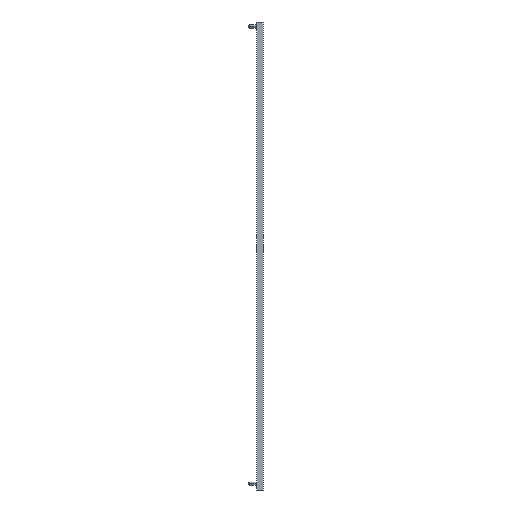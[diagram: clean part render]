
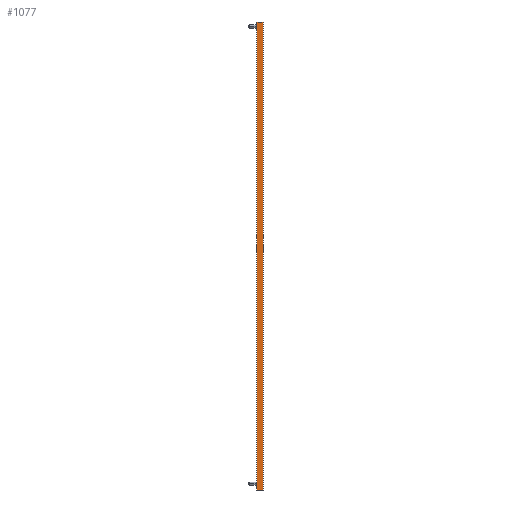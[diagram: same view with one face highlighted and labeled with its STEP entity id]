
A CAD part, left-side view. The second image highlights one B-rep face of the part: STEP entity #1077.
In plain terms, the highlighted planar face has unit normal (-1, 0, 0).
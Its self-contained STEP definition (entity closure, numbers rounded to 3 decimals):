
#23 = ORIENTED_EDGE ( 'NONE', *, *, #484, .F. ) ;
#94 = VERTEX_POINT ( 'NONE', #1176 ) ;
#105 = CARTESIAN_POINT ( 'NONE',  ( -8., 12.5, 879. ) ) ;
#151 = CARTESIAN_POINT ( 'NONE',  ( -8., 0., 0. ) ) ;
#157 = VECTOR ( 'NONE', #1432, 1000. ) ;
#258 = ORIENTED_EDGE ( 'NONE', *, *, #2837, .T. ) ;
#311 = DIRECTION ( 'NONE',  ( 0., -1., 0. ) ) ;
#364 = CARTESIAN_POINT ( 'NONE',  ( -8., 0., 879. ) ) ;
#434 = LINE ( 'NONE', #2697, #157 ) ;
#435 = VECTOR ( 'NONE', #2642, 1000. ) ;
#484 = EDGE_CURVE ( 'NONE', #2152, #2352, #434, .T. ) ;
#489 = EDGE_CURVE ( 'NONE', #1449, #3046, #1183, .T. ) ;
#579 = VECTOR ( 'NONE', #3203, 1000. ) ;
#669 = CARTESIAN_POINT ( 'NONE',  ( -8., 0., 879. ) ) ;
#737 = AXIS2_PLACEMENT_3D ( 'NONE', #364, #1094, #2337 ) ;
#833 = DIRECTION ( 'NONE',  ( 0., -1., 0. ) ) ;
#849 = FACE_OUTER_BOUND ( 'NONE', #2182, .T. ) ;
#931 = DIRECTION ( 'NONE',  ( 0., 1., 0. ) ) ;
#992 = CARTESIAN_POINT ( 'NONE',  ( -8., 12.5, 879. ) ) ;
#1077 = ADVANCED_FACE ( 'NONE', ( #849 ), #2591, .T. ) ;
#1094 = DIRECTION ( 'NONE',  ( -1., 0., 0. ) ) ;
#1099 = DIRECTION ( 'NONE',  ( 0., -1., 0. ) ) ;
#1141 = LINE ( 'NONE', #151, #435 ) ;
#1162 = CARTESIAN_POINT ( 'NONE',  ( -8., 0., 879. ) ) ;
#1176 = CARTESIAN_POINT ( 'NONE',  ( -8., 9.3, 0. ) ) ;
#1183 = LINE ( 'NONE', #2192, #579 ) ;
#1263 = CARTESIAN_POINT ( 'NONE',  ( -8., 9.3, 879. ) ) ;
#1332 = CARTESIAN_POINT ( 'NONE',  ( -8., 0., 0. ) ) ;
#1378 = LINE ( 'NONE', #1162, #2963 ) ;
#1388 = LINE ( 'NONE', #3089, #2988 ) ;
#1432 = DIRECTION ( 'NONE',  ( 0., 0., 1. ) ) ;
#1449 = VERTEX_POINT ( 'NONE', #3218 ) ;
#1662 = DIRECTION ( 'NONE',  ( 0., 1., 0. ) ) ;
#1681 = VECTOR ( 'NONE', #1099, 1000. ) ;
#1751 = EDGE_CURVE ( 'NONE', #2352, #2968, #2596, .T. ) ;
#1754 = ORIENTED_EDGE ( 'NONE', *, *, #3119, .T. ) ;
#1793 = LINE ( 'NONE', #1332, #2641 ) ;
#1903 = ORIENTED_EDGE ( 'NONE', *, *, #2658, .T. ) ;
#1936 = EDGE_CURVE ( 'NONE', #94, #2065, #1793, .T. ) ;
#2014 = ORIENTED_EDGE ( 'NONE', *, *, #1936, .T. ) ;
#2059 = CARTESIAN_POINT ( 'NONE',  ( -8., 3.2, 0. ) ) ;
#2065 = VERTEX_POINT ( 'NONE', #2059 ) ;
#2152 = VERTEX_POINT ( 'NONE', #2328 ) ;
#2182 = EDGE_LOOP ( 'NONE', ( #23, #1903, #2014, #1754, #2289, #258, #2768, #2617 ) ) ;
#2192 = CARTESIAN_POINT ( 'NONE',  ( -8., 0., 879. ) ) ;
#2289 = ORIENTED_EDGE ( 'NONE', *, *, #489, .T. ) ;
#2328 = CARTESIAN_POINT ( 'NONE',  ( -8., 12.5, 0. ) ) ;
#2337 = DIRECTION ( 'NONE',  ( 0., 0., 1. ) ) ;
#2352 = VERTEX_POINT ( 'NONE', #992 ) ;
#2591 = PLANE ( 'NONE',  #737 ) ;
#2596 = LINE ( 'NONE', #105, #1681 ) ;
#2617 = ORIENTED_EDGE ( 'NONE', *, *, #1751, .F. ) ;
#2632 = LINE ( 'NONE', #669, #3199 ) ;
#2641 = VECTOR ( 'NONE', #311, 1000. ) ;
#2642 = DIRECTION ( 'NONE',  ( 0., -1., 0. ) ) ;
#2658 = EDGE_CURVE ( 'NONE', #2152, #94, #1141, .T. ) ;
#2697 = CARTESIAN_POINT ( 'NONE',  ( -8., 12.5, 879. ) ) ;
#2768 = ORIENTED_EDGE ( 'NONE', *, *, #3163, .T. ) ;
#2818 = CARTESIAN_POINT ( 'NONE',  ( -8., 0., 879. ) ) ;
#2837 = EDGE_CURVE ( 'NONE', #3046, #3191, #1378, .T. ) ;
#2963 = VECTOR ( 'NONE', #931, 1000. ) ;
#2968 = VERTEX_POINT ( 'NONE', #1263 ) ;
#2988 = VECTOR ( 'NONE', #833, 1000. ) ;
#3046 = VERTEX_POINT ( 'NONE', #2818 ) ;
#3089 = CARTESIAN_POINT ( 'NONE',  ( -8., 0., 0. ) ) ;
#3119 = EDGE_CURVE ( 'NONE', #2065, #1449, #1388, .T. ) ;
#3163 = EDGE_CURVE ( 'NONE', #3191, #2968, #2632, .T. ) ;
#3191 = VERTEX_POINT ( 'NONE', #3226 ) ;
#3199 = VECTOR ( 'NONE', #1662, 1000. ) ;
#3203 = DIRECTION ( 'NONE',  ( 0., 0., 1. ) ) ;
#3218 = CARTESIAN_POINT ( 'NONE',  ( -8., 0., 0. ) ) ;
#3226 = CARTESIAN_POINT ( 'NONE',  ( -8., 3.2, 879. ) ) ;
